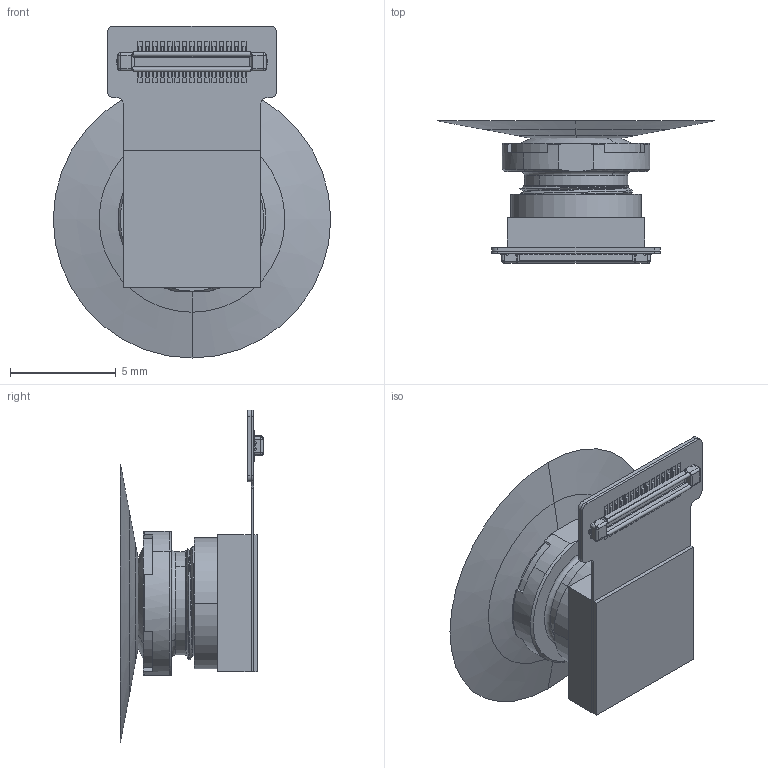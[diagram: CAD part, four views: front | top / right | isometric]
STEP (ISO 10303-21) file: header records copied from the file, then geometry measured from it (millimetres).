
FILE_DESCRIPTION((''),'2;1');
FILE_NAME('CV1222-B_ASM','2023-05-23T',('笢侅嫖萇'),(''),'PRO/ENGINEER BY PARAMETRIC TECHNOLOGY CORPORATION, 2013240','PRO/ENGINEER BY PARAMETRIC TECHNOLOGY CORPORATION, 2013240','');
FILE_SCHEMA(('AUTOMOTIVE_DESIGN_CC2 { 1 2 10303 214 -1 1 5 2 }'));
Products named in the file (16): FPC_2; STEEL-1_1; STEEL-2_1; FPC_ASM_ASM_4_ASM; DIZUO_1_4; BM28B0_6-30DP_1_4; 8090-90A3-FF9C_20211207_2_1_1; 8090-90A3-FF9F_ANY_ASM_1_ASM_1__ASM; ASM0002_ASM_1_ASM; PCB; SENSOR; C0201_1; ZJ-5X5-B; GLASS; VD55G0_ASM; CV1222-B_ASM
Assembly tree (19 placements, depth 4):
  CV1222-B_ASM
    ASM0002_ASM_1_ASM
      FPC_ASM_ASM_4_ASM
        FPC_2
        STEEL-1_1
        STEEL-2_1
      DIZUO_1_4
      BM28B0_6-30DP_1_4
      8090-90A3-FF9F_ANY_ASM_1_ASM_1__ASM
        8090-90A3-FF9C_20211207_2_1_1
    VD55G0_ASM
      PCB
      SENSOR
      C0201_1  x5
      ZJ-5X5-B
      GLASS
Bounding box: 13.13 x 6.77 x 15.72 mm (x, y, z)
Volume: 162.1 mm3; surface area: 988.5 mm2
Topology: 15 solids, 46 shells, 1681 faces, 5576 edges, 5694 vertices
Faces by surface type: plane 1459, cylinder 151, bspline 38, cone 29, torus 4
Entity records: 75641 total; most frequent: CARTESIAN_POINT 16083, DIRECTION 8960, ORIENTED_EDGE 7918, VECTOR 4866, LINE 4866, EDGE_CURVE 3960, PRESENTATION_STYLE_ASSIGNMENT 3857, STYLED_ITEM 3771
